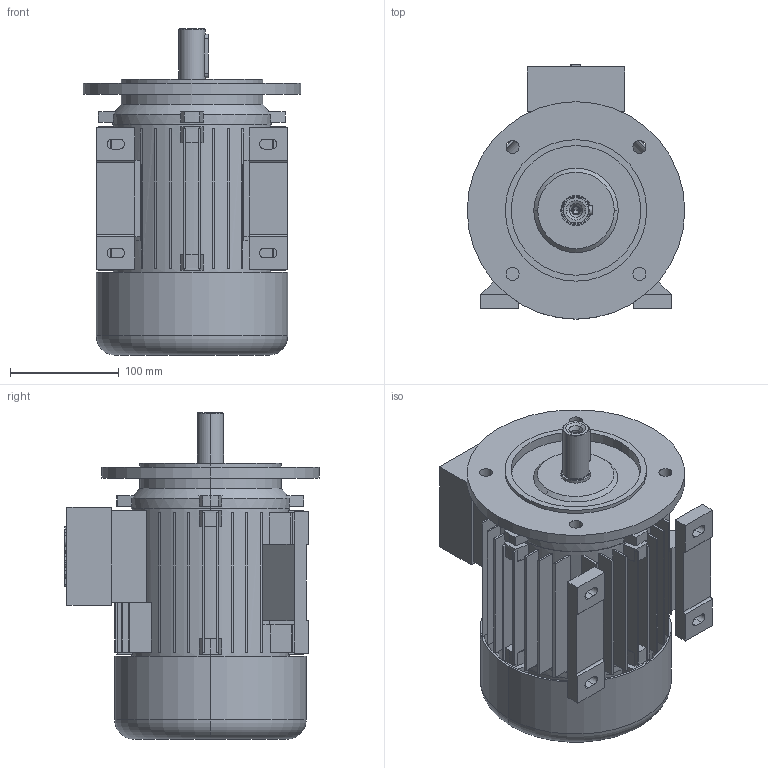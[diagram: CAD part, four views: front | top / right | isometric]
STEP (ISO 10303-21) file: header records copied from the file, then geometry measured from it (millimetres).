
FILE_DESCRIPTION (( 'STEP AP203' ), '1' );
FILE_NAME ('5AZ 90S config.STEP', '2018-07-03T06:58:54', ( '' ), ( '' ), 'SwSTEP 2.0', 'SolidWorks 2018', '' );
FILE_SCHEMA (( 'CONFIG_CONTROL_DESIGN' ));
Length unit declared in the file: millimetre
Products named in the file (1): 5AZ 90S config
Bounding box: 200 x 234 x 300 mm (x, y, z)
Volume: 2035800.2 mm3; surface area: 640379.7 mm2
Topology: 9 solids, 9 shells, 526 faces, 1355 edges, 890 vertices
Faces by surface type: plane 350, cylinder 141, cone 22, bspline 9, torus 4
Entity records: 16225 total; most frequent: CARTESIAN_POINT 3003, DIRECTION 2779, ORIENTED_EDGE 2706, EDGE_CURVE 1353, AXIS2_PLACEMENT_3D 946, VERTEX_POINT 890, LINE 887, VECTOR 887
